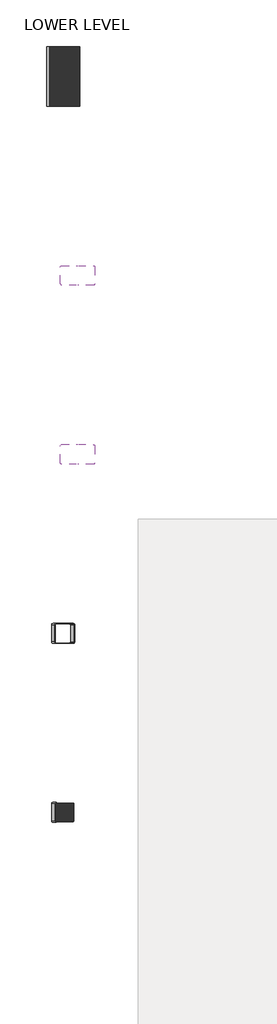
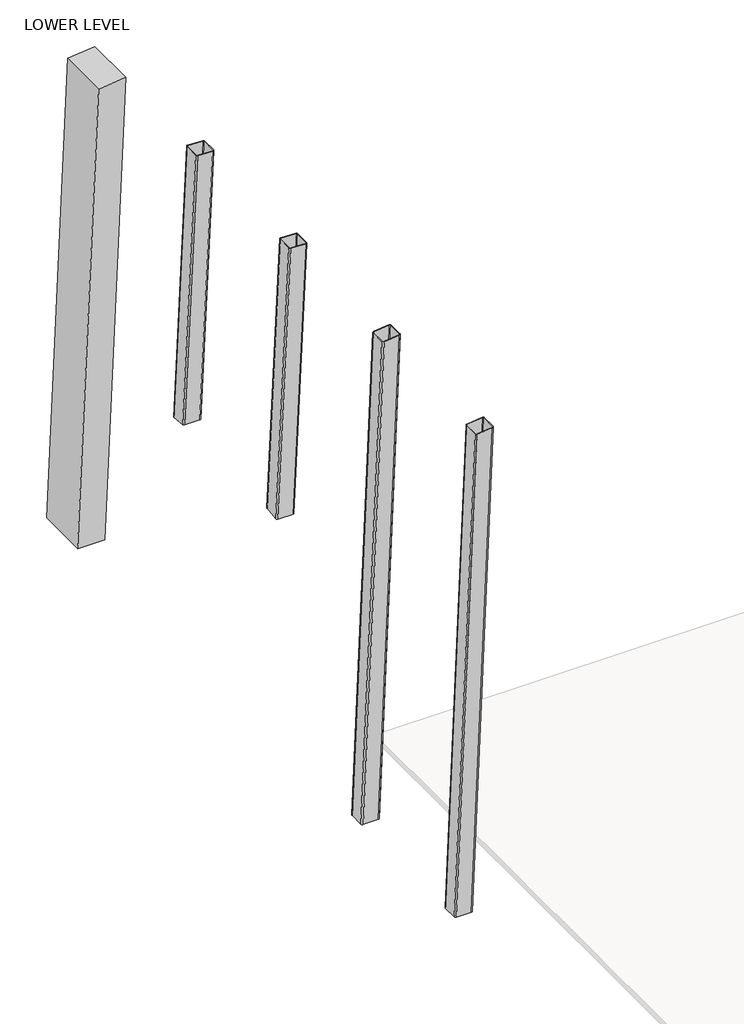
# One storey, part 2 of 2: 5 columns.
"""IFC4 building model written with IfcOpenShell, lengths in millimetres."""

from ifc_helpers import new_model, si_unit, frame, origin, place, context, project, spatial, polyline, circle_curve, ellipse_curve, faceted_brep, element, save
from ifc_brep_helpers import plane_surface, cylinder_surface, revolved_surface, advanced_brep

model = new_model("IFC4")

# Units and contexts
model_context = context("Model", 3, world=origin())
ifc_project = project(units=[si_unit("LENGTHUNIT", "METRE", prefix="MILLI")], contexts=[model_context])

# Site, building, storey
site = spatial("IfcSite", under=ifc_project)
building = spatial("IfcBuilding", under=site)
storey = spatial("IfcBuildingStorey", under=building, Name="LOWER LEVEL", Elevation=29972.0)

# Columns
placement = place(None, origin())
element("IfcColumn", 1, ObjectType="Concrete-Rectangular-Column : A_str", at=placement, inside=storey, context=model_context, shape_type="Brep", body=[
    faceted_brep([(-21147.4307495, 21762.6082736, 38153.7759611), (-21607.7400357, 21762.6082736, 38102.2891217), (-21607.7400357, 21759.2695005, 38102.2891217), (-21607.7400357, 20848.2082736, 38102.2891217), (-21147.4307495, 20848.2082736, 38153.7759611), (-21147.4307495, 21759.2695005, 38153.7759611), (-21965.9553348, 21762.6082736, 29972.0), (-21965.9553348, 20848.2082736, 29972.0), (-21507.9145255, 21762.6082736, 29972.0), (-21507.9145255, 20848.2082736, 29972.0)], [[[0, 1, 2, 3, 4, 5]], [[2, 1, 6, 7, 3]], [[1, 0, 8, 6]], [[4, 3, 7, 9]], [[5, 4, 9, 8, 0]], [[7, 6, 8, 9]]]),
])
element("IfcColumn", 2, ObjectType="HSS-Hollow Structural Section-Column : HSS12X12X1/2", at=placement, inside=storey, context=model_context, shape_type="AdvancedBrep", body=[
    advanced_brep(
    [(-21533.4360881, 10151.9775005, 38519.5536732), (-21533.4360881, 9894.4215005, 38519.5536732), (-21509.6829426, 9870.7995005, 38522.2104192), (-21250.6970332, 9870.7995005, 38551.1775203), (-21226.9438877, 9894.4215005, 38553.8342663), (-21226.9438877, 10151.9775005, 38553.8342663), (-21250.6970332, 10175.5995005, 38551.1775203), (-21509.6829426, 10175.5995005, 38522.2104192), (-21509.6829426, 9882.6105005, 38522.2104192), (-21521.5595154, 9894.4215005, 38520.8820462), (-21521.5595154, 10151.9775005, 38520.8820462), (-21509.6829426, 10163.7885005, 38522.2104192), (-21250.6970332, 10163.7885005, 38551.1775203), (-21238.8204605, 10151.9775005, 38552.5058933), (-21238.8204605, 9894.4215005, 38552.5058933), (-21250.6970332, 9882.6105005, 38551.1775203), (-21889.5056209, 9894.4215005, 29971.1494497), (-21889.5056209, 10151.9775005, 29971.1494497), (-21865.8631377, 10175.5995005, 29971.1494497), (-21608.0838046, 10175.5995005, 29971.1494497), (-21584.4413214, 10151.9775005, 29971.1494497), (-21584.4413214, 9894.4215005, 29971.1494497), (-21608.0838046, 9870.7995005, 29971.1494497), (-21865.8631377, 9870.7995005, 29971.1494497), (-21877.6843793, 9894.4215005, 29971.1494497), (-21865.8631377, 9882.6105005, 29971.1494497), (-21608.0838046, 9882.6105005, 29971.1494497), (-21596.262563, 9894.4215005, 29971.1494497), (-21596.262563, 10151.9775005, 29971.1494497), (-21608.0838046, 10163.7885005, 29971.1494497), (-21865.8631377, 10163.7885005, 29971.1494497), (-21877.6843793, 10151.9775005, 29971.1494497)],
    [
        (0, 1),
        (1, 2, ellipse_curve(frame((-21509.6829426, 9894.4215005, 38522.2104192), z_axis=(-0.11115505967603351, 0.0, 0.9938030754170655), x_axis=(0.9938030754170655, 0.0, 0.11115505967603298)), 23.9012598, 23.622)),
        (2, 3),
        (3, 4, ellipse_curve(frame((-21250.6970332, 9894.4215005, 38551.1775203), z_axis=(-0.11115505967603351, 0.0, 0.9938030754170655), x_axis=(0.9938030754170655, 0.0, 0.11115505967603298)), 23.9012598, 23.622)),
        (4, 5),
        (5, 6, ellipse_curve(frame((-21250.6970332, 10151.9775005, 38551.1775203), z_axis=(-0.11115505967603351, 0.0, 0.9938030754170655), x_axis=(0.9938030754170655, 0.0, 0.11115505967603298)), 23.9012598, 23.622)),
        (6, 7),
        (7, 0, ellipse_curve(frame((-21509.6829426, 10151.9775005, 38522.2104192), z_axis=(-0.11115505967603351, 0.0, 0.9938030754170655), x_axis=(0.9938030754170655, 0.0, 0.11115505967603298)), 23.9012598, 23.622)),
        (8, 9, ellipse_curve(frame((-21509.6829426, 9894.4215005, 38522.2104192), z_axis=(0.11115505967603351, 0.0, -0.9938030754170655), x_axis=(-0.9938030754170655, 0.0, -0.11115505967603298)), 11.9506299, 11.811)),
        (9, 10),
        (10, 11, ellipse_curve(frame((-21509.6829426, 10151.9775005, 38522.2104192), z_axis=(0.11115505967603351, 0.0, -0.9938030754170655), x_axis=(-0.9938030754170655, 0.0, -0.11115505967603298)), 11.9506299, 11.811)),
        (11, 12),
        (12, 13, ellipse_curve(frame((-21250.6970332, 10151.9775005, 38551.1775203), z_axis=(0.11115505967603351, 0.0, -0.9938030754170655), x_axis=(-0.9938030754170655, 0.0, -0.11115505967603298)), 11.9506299, 11.811)),
        (13, 14),
        (14, 15, ellipse_curve(frame((-21250.6970332, 9894.4215005, 38551.1775203), z_axis=(0.11115505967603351, 0.0, -0.9938030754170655), x_axis=(-0.9938030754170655, 0.0, -0.11115505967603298)), 11.9506299, 11.811)),
        (15, 8),
        (16, 17),
        (17, 18, ellipse_curve(frame((-21865.8631377, 10151.9775005, 29971.1494497), z_axis=(0.0, 0.0, -1.0), x_axis=(1.0, 0.0, 0.0)), 23.6424832, 23.622)),
        (18, 19),
        (19, 20, ellipse_curve(frame((-21608.0838046, 10151.9775005, 29971.1494497), z_axis=(0.0, 0.0, -1.0), x_axis=(1.0, 0.0, 0.0)), 23.6424832, 23.622)),
        (20, 21),
        (21, 22, ellipse_curve(frame((-21608.0838046, 9894.4215005, 29971.1494497), z_axis=(0.0, 0.0, -1.0), x_axis=(1.0, 0.0, 0.0)), 23.6424832, 23.622)),
        (22, 23),
        (23, 16, ellipse_curve(frame((-21865.8631377, 9894.4215005, 29971.1494497), z_axis=(0.0, 0.0, -1.0), x_axis=(1.0, 0.0, 0.0)), 23.6424832, 23.622)),
        (24, 25, ellipse_curve(frame((-21865.8631377, 9894.4215005, 29971.1494497), z_axis=(0.0, 0.0, 1.0), x_axis=(-1.0, 0.0, 0.0)), 11.8212416, 11.811)),
        (25, 26),
        (26, 27, ellipse_curve(frame((-21608.0838046, 9894.4215005, 29971.1494497), z_axis=(0.0, 0.0, 1.0), x_axis=(-1.0, 0.0, 0.0)), 11.8212416, 11.811)),
        (27, 28),
        (28, 29, ellipse_curve(frame((-21608.0838046, 10151.9775005, 29971.1494497), z_axis=(0.0, 0.0, 1.0), x_axis=(-1.0, 0.0, 0.0)), 11.8212416, 11.811)),
        (29, 30),
        (30, 31, ellipse_curve(frame((-21865.8631377, 10151.9775005, 29971.1494497), z_axis=(0.0, 0.0, 1.0), x_axis=(-1.0, 0.0, 0.0)), 11.8212416, 11.811)),
        (31, 24),
        (0, 17),
        (16, 1),
        (7, 18),
        (6, 19),
        (5, 20),
        (4, 21),
        (3, 22),
        (2, 23),
        (8, 25),
        (24, 9),
        (15, 26),
        (14, 27),
        (13, 28),
        (12, 29),
        (11, 30),
        (10, 31),
    ],
    [
        plane_surface(frame((-6860.2204607, 20600.2981473, 40160.7260534), z_axis=(-0.11115505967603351, 0.0, 0.9938030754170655), x_axis=(0.9938030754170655, 0.0, 0.11115505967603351))),
        plane_surface(frame((-21736.9734711, 10023.1995005, 29971.1494497), z_axis=(0.0, 0.0, -1.0), x_axis=(1.0, 0.0, 0.0))),
        plane_surface(frame((-21531.4798172, 10151.9775005, 38566.519203), z_axis=(-0.9991336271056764, 0.0, 0.04161724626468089), x_axis=(-0.04161724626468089, 0.0, -0.9991336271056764))),
        cylinder_surface(frame((-21883.5946664, 10151.9775005, 29545.4565416), z_axis=(0.04161724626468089, 0.0, 0.9991336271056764), x_axis=(0.0, 1.0, 0.0)), 23.622),
        plane_surface(frame((-21250.5454222, 10175.5995005, 38554.8173489), z_axis=(0.0, 1.0, 0.0), x_axis=(-0.04161724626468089, 0.0, -0.9991336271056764))),
        cylinder_surface(frame((-21626.2618059, 10151.9775005, 29534.7377702), z_axis=(0.04161724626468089, 0.0, 0.9991336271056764), x_axis=(0.0, 1.0, 0.0)), 23.622),
        plane_surface(frame((-21226.9438877, 9894.4215005, 38553.8342663), z_axis=(0.9991336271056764, 0.0, -0.04161724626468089), x_axis=(-0.04161724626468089, 0.0, -0.9991336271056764))),
        cylinder_surface(frame((-21626.2618059, 9894.4215005, 29534.7377702), z_axis=(0.04161724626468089, 0.0, 0.9991336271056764), x_axis=(0.0, 1.0, 0.0)), 23.622),
        plane_surface(frame((-21507.8782827, 9870.7995005, 38565.5361204), z_axis=(0.0, -1.0, 0.0), x_axis=(-0.04161724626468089, 0.0, -0.9991336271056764))),
        cylinder_surface(frame((-21883.5946664, 9894.4215005, 29545.4565416), z_axis=(0.04161724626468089, 0.0, 0.9991336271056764), x_axis=(0.0, 1.0, 0.0)), 23.622),
        revolved_surface(polyline([(-21865.88361202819, 9906.2325005, 29970.65790840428), (-21509.60713713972, 9906.2325005, 38524.03033347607)]), (-21883.5946664, 9894.4215005, 29545.4565416), (-0.04161724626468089, 0.0, -0.9991336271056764)),
        plane_surface(frame((-21250.5454222, 9882.6105005, 38554.8173489), z_axis=(0.0, 1.0, 0.0), x_axis=(-0.04161724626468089, 0.0, -0.9991336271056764))),
        revolved_surface(polyline([(-21608.10427896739, 9906.2325005, 29970.657908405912), (-21250.621227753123, 9906.2325005, 38552.99743459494)]), (-21626.2618059, 9894.4215005, 29534.7377702), (-0.04161724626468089, 0.0, -0.9991336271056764)),
        plane_surface(frame((-21238.744655, 10151.9775005, 38554.3258076), z_axis=(-0.9991336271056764, 0.0, 0.04161724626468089), x_axis=(-0.04161724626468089, 0.0, -0.9991336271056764))),
        revolved_surface(polyline([(-21608.10427896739, 10163.788500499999, 29970.657908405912), (-21250.621227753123, 10163.788500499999, 38552.99743459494)]), (-21626.2618059, 10151.9775005, 29534.7377702), (-0.04161724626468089, 0.0, -0.9991336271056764)),
        plane_surface(frame((-21507.8782827, 10163.7885005, 38565.5361204), z_axis=(0.0, -1.0, 0.0), x_axis=(-0.04161724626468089, 0.0, -0.9991336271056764))),
        revolved_surface(polyline([(-21865.88361202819, 10163.788500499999, 29970.65790840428), (-21509.60713713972, 10163.788500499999, 38524.03033347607)]), (-21883.5946664, 10151.9775005, 29545.4565416), (-0.04161724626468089, 0.0, -0.9991336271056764)),
        plane_surface(frame((-21519.67905, 9894.4215005, 38566.0276617), z_axis=(0.9991336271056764, 0.0, -0.04161724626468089), x_axis=(-0.04161724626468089, 0.0, -0.9991336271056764))),
    ],
    [
        (0, [[1, 2, 3, 4, 5, 6, 7, 8], [9, 10, 11, 12, 13, 14, 15, 16]]),
        (1, [[17, 18, 19, 20, 21, 22, 23, 24], [25, 26, 27, 28, 29, 30, 31, 32]]),
        (2, [[33, -17, 34, -1]]),
        (3, [[35, -18, -33, -8]]),
        (4, [[36, -19, -35, -7]]),
        (5, [[37, -20, -36, -6]]),
        (6, [[38, -21, -37, -5]]),
        (7, [[39, -22, -38, -4]]),
        (8, [[40, -23, -39, -3]]),
        (9, [[-34, -24, -40, -2]]),
        (10, [[41, -25, 42, -9]]),
        (11, [[43, -26, -41, -16]]),
        (12, [[44, -27, -43, -15]]),
        (13, [[45, -28, -44, -14]]),
        (14, [[46, -29, -45, -13]]),
        (15, [[47, -30, -46, -12]]),
        (16, [[48, -31, -47, -11]]),
        (17, [[-42, -32, -48, -10]]),
    ],
),
])
element("IfcColumn", 3, ObjectType="HSS-Hollow Structural Section-Column : HSS12X12X1/2", at=placement, inside=storey, context=model_context, shape_type="AdvancedBrep", body=[
    advanced_brep(
    [(-21533.4360881, 12895.1775005, 38519.5536732), (-21533.4360881, 12637.6215005, 38519.5536732), (-21509.6829426, 12613.9995005, 38522.2104192), (-21250.6970332, 12613.9995005, 38551.1775203), (-21226.9438877, 12637.6215005, 38553.8342663), (-21226.9438877, 12895.1775005, 38553.8342663), (-21250.6970332, 12918.7995005, 38551.1775203), (-21509.6829426, 12918.7995005, 38522.2104192), (-21509.6829426, 12625.8105005, 38522.2104192), (-21521.5595154, 12637.6215005, 38520.8820462), (-21521.5595154, 12895.1775005, 38520.8820462), (-21509.6829426, 12906.9885005, 38522.2104192), (-21250.6970332, 12906.9885005, 38551.1775203), (-21238.8204605, 12895.1775005, 38552.5058933), (-21238.8204605, 12637.6215005, 38552.5058933), (-21250.6970332, 12625.8105005, 38551.1775203), (-21889.5056209, 12637.6215005, 29971.1494497), (-21889.5056209, 12895.1775005, 29971.1494497), (-21865.8631377, 12918.7995005, 29971.1494497), (-21608.0838046, 12918.7995005, 29971.1494497), (-21584.4413214, 12895.1775005, 29971.1494497), (-21584.4413214, 12637.6215005, 29971.1494497), (-21608.0838046, 12613.9995005, 29971.1494497), (-21865.8631377, 12613.9995005, 29971.1494497), (-21877.6843793, 12637.6215005, 29971.1494497), (-21865.8631377, 12625.8105005, 29971.1494497), (-21608.0838046, 12625.8105005, 29971.1494497), (-21596.262563, 12637.6215005, 29971.1494497), (-21596.262563, 12895.1775005, 29971.1494497), (-21608.0838046, 12906.9885005, 29971.1494497), (-21865.8631377, 12906.9885005, 29971.1494497), (-21877.6843793, 12895.1775005, 29971.1494497)],
    [
        (0, 1),
        (1, 2, ellipse_curve(frame((-21509.6829426, 12637.6215005, 38522.2104192), z_axis=(-0.11115505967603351, 0.0, 0.9938030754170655), x_axis=(0.9938030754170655, 0.0, 0.11115505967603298)), 23.9012598, 23.622)),
        (2, 3),
        (3, 4, ellipse_curve(frame((-21250.6970332, 12637.6215005, 38551.1775203), z_axis=(-0.11115505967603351, 0.0, 0.9938030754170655), x_axis=(0.9938030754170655, 0.0, 0.11115505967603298)), 23.9012598, 23.622)),
        (4, 5),
        (5, 6, ellipse_curve(frame((-21250.6970332, 12895.1775005, 38551.1775203), z_axis=(-0.11115505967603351, 0.0, 0.9938030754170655), x_axis=(0.9938030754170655, 0.0, 0.11115505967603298)), 23.9012598, 23.622)),
        (6, 7),
        (7, 0, ellipse_curve(frame((-21509.6829426, 12895.1775005, 38522.2104192), z_axis=(-0.11115505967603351, 0.0, 0.9938030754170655), x_axis=(0.9938030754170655, 0.0, 0.11115505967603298)), 23.9012598, 23.622)),
        (8, 9, ellipse_curve(frame((-21509.6829426, 12637.6215005, 38522.2104192), z_axis=(0.11115505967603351, 0.0, -0.9938030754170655), x_axis=(-0.9938030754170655, 0.0, -0.11115505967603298)), 11.9506299, 11.811)),
        (9, 10),
        (10, 11, ellipse_curve(frame((-21509.6829426, 12895.1775005, 38522.2104192), z_axis=(0.11115505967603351, 0.0, -0.9938030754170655), x_axis=(-0.9938030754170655, 0.0, -0.11115505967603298)), 11.9506299, 11.811)),
        (11, 12),
        (12, 13, ellipse_curve(frame((-21250.6970332, 12895.1775005, 38551.1775203), z_axis=(0.11115505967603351, 0.0, -0.9938030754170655), x_axis=(-0.9938030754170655, 0.0, -0.11115505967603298)), 11.9506299, 11.811)),
        (13, 14),
        (14, 15, ellipse_curve(frame((-21250.6970332, 12637.6215005, 38551.1775203), z_axis=(0.11115505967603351, 0.0, -0.9938030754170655), x_axis=(-0.9938030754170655, 0.0, -0.11115505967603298)), 11.9506299, 11.811)),
        (15, 8),
        (16, 17),
        (17, 18, ellipse_curve(frame((-21865.8631377, 12895.1775005, 29971.1494497), z_axis=(0.0, 0.0, -1.0), x_axis=(1.0, 0.0, 0.0)), 23.6424832, 23.622)),
        (18, 19),
        (19, 20, ellipse_curve(frame((-21608.0838046, 12895.1775005, 29971.1494497), z_axis=(0.0, 0.0, -1.0), x_axis=(1.0, 0.0, 0.0)), 23.6424832, 23.622)),
        (20, 21),
        (21, 22, ellipse_curve(frame((-21608.0838046, 12637.6215005, 29971.1494497), z_axis=(0.0, 0.0, -1.0), x_axis=(1.0, 0.0, 0.0)), 23.6424832, 23.622)),
        (22, 23),
        (23, 16, ellipse_curve(frame((-21865.8631377, 12637.6215005, 29971.1494497), z_axis=(0.0, 0.0, -1.0), x_axis=(1.0, 0.0, 0.0)), 23.6424832, 23.622)),
        (24, 25, ellipse_curve(frame((-21865.8631377, 12637.6215005, 29971.1494497), z_axis=(0.0, 0.0, 1.0), x_axis=(-1.0, 0.0, 0.0)), 11.8212416, 11.811)),
        (25, 26),
        (26, 27, ellipse_curve(frame((-21608.0838046, 12637.6215005, 29971.1494497), z_axis=(0.0, 0.0, 1.0), x_axis=(-1.0, 0.0, 0.0)), 11.8212416, 11.811)),
        (27, 28),
        (28, 29, ellipse_curve(frame((-21608.0838046, 12895.1775005, 29971.1494497), z_axis=(0.0, 0.0, 1.0), x_axis=(-1.0, 0.0, 0.0)), 11.8212416, 11.811)),
        (29, 30),
        (30, 31, ellipse_curve(frame((-21865.8631377, 12895.1775005, 29971.1494497), z_axis=(0.0, 0.0, 1.0), x_axis=(-1.0, 0.0, 0.0)), 11.8212416, 11.811)),
        (31, 24),
        (0, 17),
        (16, 1),
        (7, 18),
        (6, 19),
        (5, 20),
        (4, 21),
        (3, 22),
        (2, 23),
        (8, 25),
        (24, 9),
        (15, 26),
        (14, 27),
        (13, 28),
        (12, 29),
        (11, 30),
        (10, 31),
    ],
    [
        plane_surface(frame((-6860.2204607, 20600.2981473, 40160.7260534), z_axis=(-0.11115505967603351, 0.0, 0.9938030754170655), x_axis=(0.9938030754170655, 0.0, 0.11115505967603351))),
        plane_surface(frame((-21736.9734711, 12766.3995005, 29971.1494497), z_axis=(0.0, 0.0, -1.0), x_axis=(1.0, 0.0, 0.0))),
        plane_surface(frame((-21531.4798172, 12895.1775005, 38566.519203), z_axis=(-0.9991336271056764, 0.0, 0.04161724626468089), x_axis=(-0.04161724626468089, 0.0, -0.9991336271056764))),
        cylinder_surface(frame((-21883.5946664, 12895.1775005, 29545.4565416), z_axis=(0.04161724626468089, 0.0, 0.9991336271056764), x_axis=(0.0, 1.0, 0.0)), 23.622),
        plane_surface(frame((-21250.5454222, 12918.7995005, 38554.8173489), z_axis=(0.0, 1.0, 0.0), x_axis=(-0.04161724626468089, 0.0, -0.9991336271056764))),
        cylinder_surface(frame((-21626.2618059, 12895.1775005, 29534.7377702), z_axis=(0.04161724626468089, 0.0, 0.9991336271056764), x_axis=(0.0, 1.0, 0.0)), 23.622),
        plane_surface(frame((-21226.9438877, 12637.6215005, 38553.8342663), z_axis=(0.9991336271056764, 0.0, -0.04161724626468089), x_axis=(-0.04161724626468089, 0.0, -0.9991336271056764))),
        cylinder_surface(frame((-21626.2618059, 12637.6215005, 29534.7377702), z_axis=(0.04161724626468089, 0.0, 0.9991336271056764), x_axis=(0.0, 1.0, 0.0)), 23.622),
        plane_surface(frame((-21507.8782827, 12613.9995005, 38565.5361204), z_axis=(0.0, -1.0, 0.0), x_axis=(-0.04161724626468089, 0.0, -0.9991336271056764))),
        cylinder_surface(frame((-21883.5946664, 12637.6215005, 29545.4565416), z_axis=(0.04161724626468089, 0.0, 0.9991336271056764), x_axis=(0.0, 1.0, 0.0)), 23.622),
        revolved_surface(polyline([(-21865.88361202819, 12649.4325005, 29970.65790840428), (-21509.60713713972, 12649.4325005, 38524.03033347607)]), (-21883.5946664, 12637.6215005, 29545.4565416), (-0.04161724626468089, 0.0, -0.9991336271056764)),
        plane_surface(frame((-21250.5454222, 12625.8105005, 38554.8173489), z_axis=(0.0, 1.0, 0.0), x_axis=(-0.04161724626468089, 0.0, -0.9991336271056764))),
        revolved_surface(polyline([(-21608.10427896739, 12649.4325005, 29970.657908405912), (-21250.621227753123, 12649.4325005, 38552.99743459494)]), (-21626.2618059, 12637.6215005, 29534.7377702), (-0.04161724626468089, 0.0, -0.9991336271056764)),
        plane_surface(frame((-21238.744655, 12895.1775005, 38554.3258076), z_axis=(-0.9991336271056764, 0.0, 0.04161724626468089), x_axis=(-0.04161724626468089, 0.0, -0.9991336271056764))),
        revolved_surface(polyline([(-21608.10427896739, 12906.9885005, 29970.657908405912), (-21250.621227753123, 12906.9885005, 38552.99743459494)]), (-21626.2618059, 12895.1775005, 29534.7377702), (-0.04161724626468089, 0.0, -0.9991336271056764)),
        plane_surface(frame((-21507.8782827, 12906.9885005, 38565.5361204), z_axis=(0.0, -1.0, 0.0), x_axis=(-0.04161724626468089, 0.0, -0.9991336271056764))),
        revolved_surface(polyline([(-21865.88361202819, 12906.9885005, 29970.65790840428), (-21509.60713713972, 12906.9885005, 38524.03033347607)]), (-21883.5946664, 12895.1775005, 29545.4565416), (-0.04161724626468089, 0.0, -0.9991336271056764)),
        plane_surface(frame((-21519.67905, 12637.6215005, 38566.0276617), z_axis=(0.9991336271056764, 0.0, -0.04161724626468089), x_axis=(-0.04161724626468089, 0.0, -0.9991336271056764))),
    ],
    [
        (0, [[1, 2, 3, 4, 5, 6, 7, 8], [9, 10, 11, 12, 13, 14, 15, 16]]),
        (1, [[17, 18, 19, 20, 21, 22, 23, 24], [25, 26, 27, 28, 29, 30, 31, 32]]),
        (2, [[33, -17, 34, -1]]),
        (3, [[35, -18, -33, -8]]),
        (4, [[36, -19, -35, -7]]),
        (5, [[37, -20, -36, -6]]),
        (6, [[38, -21, -37, -5]]),
        (7, [[39, -22, -38, -4]]),
        (8, [[40, -23, -39, -3]]),
        (9, [[-34, -24, -40, -2]]),
        (10, [[41, -25, 42, -9]]),
        (11, [[43, -26, -41, -16]]),
        (12, [[44, -27, -43, -15]]),
        (13, [[45, -28, -44, -14]]),
        (14, [[46, -29, -45, -13]]),
        (15, [[47, -30, -46, -12]]),
        (16, [[48, -31, -47, -11]]),
        (17, [[-42, -32, -48, -10]]),
    ],
),
])
element("IfcColumn", 4, ObjectType="HSS-Hollow Structural Section-Column : HSS12X12X1/2", at=placement, inside=storey, context=model_context, shape_type="AdvancedBrep", body=[
    advanced_brep(
    [(-21754.9418333, 15380.8215005, 33750.1718462), (-21753.6772977, 15638.3775005, 33777.4133462), (-21729.9138834, 15661.9995005, 33779.9118269), (-21472.0805463, 15661.9995005, 33779.9118269), (-21448.5490881, 15638.3775005, 33777.4133462), (-21449.8136237, 15380.8215005, 33750.1718462), (-21473.577038, 15357.1995005, 33747.6733654), (-21731.4103751, 15357.1995005, 33747.6733654), (-21743.1181151, 15380.8215005, 33750.1718462), (-21731.3523861, 15369.0105005, 33748.9226058), (-21473.519049, 15369.0105005, 33748.9226058), (-21461.6373418, 15380.8215005, 33750.1718462), (-21460.3728063, 15638.3775005, 33777.4133462), (-21472.1385353, 15650.1885005, 33778.6625865), (-21729.9718724, 15650.1885005, 33778.6625865), (-21741.8535796, 15638.3775005, 33777.4133462), (-21532.4260596, 15638.3775005, 38543.760685), (-21532.4260596, 15380.8215005, 38543.760685), (-21508.8294685, 15357.1995005, 38542.6653441), (-21251.5505073, 15357.1995005, 38530.7225954), (-21227.9539162, 15380.8215005, 38529.6272545), (-21227.9539162, 15638.3775005, 38529.6272545), (-21251.5505073, 15661.9995005, 38530.7225954), (-21508.8294685, 15661.9995005, 38542.6653441), (-21520.6277641, 15638.3775005, 38543.2130146), (-21508.8294685, 15650.1885005, 38542.6653441), (-21251.5505073, 15650.1885005, 38530.7225954), (-21239.7522117, 15638.3775005, 38530.174925), (-21239.7522117, 15380.8215005, 38530.174925), (-21251.5505073, 15369.0105005, 38530.7225954), (-21508.8294685, 15369.0105005, 38542.6653441), (-21520.6277641, 15380.8215005, 38543.2130146)],
    [
        (0, 1),
        (1, 2, ellipse_curve(frame((-21730.0298615, 15638.3775005, 33777.4133462), z_axis=(0.0, 0.10518252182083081, -0.9944529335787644), x_axis=(0.40375232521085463, 0.9097934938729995, 0.09622815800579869)), 23.7793418, 23.622)),
        (2, 3),
        (3, 4, ellipse_curve(frame((-21472.1965244, 15638.3775005, 33777.4133462), z_axis=(0.0, 0.10518252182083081, -0.9944529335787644), x_axis=(0.40375232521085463, 0.9097934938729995, 0.09622815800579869)), 23.7793418, 23.622)),
        (4, 5),
        (5, 6, ellipse_curve(frame((-21473.4610599, 15380.8215005, 33750.1718462), z_axis=(0.0, 0.10518252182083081, -0.9944529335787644), x_axis=(0.40375232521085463, 0.9097934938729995, 0.09622815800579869)), 23.7793418, 23.622)),
        (6, 7),
        (7, 0, ellipse_curve(frame((-21731.294397, 15380.8215005, 33750.1718462), z_axis=(0.0, 0.10518252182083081, -0.9944529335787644), x_axis=(0.40375232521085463, 0.9097934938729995, 0.09622815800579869)), 23.7793418, 23.622)),
        (8, 9, ellipse_curve(frame((-21731.294397, 15380.8215005, 33750.1718462), z_axis=(0.0, -0.10518252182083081, 0.9944529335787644), x_axis=(-0.40375232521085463, -0.9097934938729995, -0.09622815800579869)), 11.8896709, 11.811)),
        (9, 10),
        (10, 11, ellipse_curve(frame((-21473.4610599, 15380.8215005, 33750.1718462), z_axis=(0.0, -0.10518252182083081, 0.9944529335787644), x_axis=(-0.40375232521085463, -0.9097934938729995, -0.09622815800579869)), 11.8896709, 11.811)),
        (11, 12),
        (12, 13, ellipse_curve(frame((-21472.1965244, 15638.3775005, 33777.4133462), z_axis=(0.0, -0.10518252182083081, 0.9944529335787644), x_axis=(-0.40375232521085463, -0.9097934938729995, -0.09622815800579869)), 11.8896709, 11.811)),
        (13, 14),
        (14, 15, ellipse_curve(frame((-21730.0298615, 15638.3775005, 33777.4133462), z_axis=(0.0, -0.10518252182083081, 0.9944529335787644), x_axis=(-0.40375232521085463, -0.9097934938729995, -0.09622815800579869)), 11.8896709, 11.811)),
        (15, 8),
        (16, 17),
        (17, 18, circle_curve(frame((-21508.8294685, 15380.8215005, 38542.6653441), z_axis=(0.04636952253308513, 0.0, 0.9989243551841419), x_axis=(0.0, 1.0, 0.0)), 23.622)),
        (18, 19),
        (19, 20, circle_curve(frame((-21251.5505073, 15380.8215005, 38530.7225954), z_axis=(0.04636952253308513, 0.0, 0.9989243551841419), x_axis=(0.0, 1.0, 0.0)), 23.622)),
        (20, 21),
        (21, 22, circle_curve(frame((-21251.5505073, 15638.3775005, 38530.7225954), z_axis=(0.04636952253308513, 0.0, 0.9989243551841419), x_axis=(0.0, 1.0, 0.0)), 23.622)),
        (22, 23),
        (23, 16, circle_curve(frame((-21508.8294685, 15638.3775005, 38542.6653441), z_axis=(0.04636952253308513, 0.0, 0.9989243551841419), x_axis=(0.0, 1.0, 0.0)), 23.622)),
        (24, 25, circle_curve(frame((-21508.8294685, 15638.3775005, 38542.6653441), z_axis=(-0.04636952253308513, 0.0, -0.9989243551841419), x_axis=(0.0, 1.0, 0.0)), 11.811)),
        (25, 26),
        (26, 27, circle_curve(frame((-21251.5505073, 15638.3775005, 38530.7225954), z_axis=(-0.04636952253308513, 0.0, -0.9989243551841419), x_axis=(0.0, 1.0, 0.0)), 11.811)),
        (27, 28),
        (28, 29, circle_curve(frame((-21251.5505073, 15380.8215005, 38530.7225954), z_axis=(-0.04636952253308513, 0.0, -0.9989243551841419), x_axis=(0.0, 1.0, 0.0)), 11.811)),
        (29, 30),
        (30, 31, circle_curve(frame((-21508.8294685, 15380.8215005, 38542.6653441), z_axis=(-0.04636952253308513, 0.0, -0.9989243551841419), x_axis=(0.0, 1.0, 0.0)), 11.811)),
        (31, 24),
        (24, 15),
        (14, 25),
        (13, 26),
        (12, 27),
        (11, 28),
        (10, 29),
        (9, 30),
        (8, 31),
        (16, 1),
        (0, 17),
        (23, 2),
        (7, 18),
        (6, 19),
        (5, 20),
        (4, 21),
        (3, 22),
    ],
    [
        plane_surface(frame((-22782.4560566, 16882.4695005, 33909.0), z_axis=(0.0, 0.10518252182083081, -0.9944529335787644), x_axis=(0.0, 0.9944529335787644, 0.10518252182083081))),
        plane_surface(frame((-21532.4260596, 15380.8215005, 38543.760685), z_axis=(0.04636952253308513, 0.0, 0.9989243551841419), x_axis=(0.0, -1.0, 0.0))),
        revolved_surface(polyline([(-21730.093178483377, 15650.1885005, 33776.04932844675), (-21508.829468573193, 15650.1885005, 38542.665344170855)]), (-21751.5820437, 15638.3775005, 33313.1213176), (-0.04636952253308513, 0.0, -0.9989243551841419)),
        plane_surface(frame((-21508.8294685, 15650.1885005, 38542.6653441), z_axis=(0.0, -1.0, 0.0), x_axis=(-0.04636952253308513, 0.0, -0.9989243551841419))),
        revolved_surface(polyline([(-21472.25984131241, 15650.1885005, 33776.049328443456), (-21251.550507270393, 15650.1885005, 38530.722595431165)]), (-21494.3030824, 15638.3775005, 33301.1785688), (-0.04636952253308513, 0.0, -0.9989243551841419)),
        plane_surface(frame((-21239.7522117, 15638.3775005, 38530.174925), z_axis=(-0.9989243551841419, 0.0, 0.04636952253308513), x_axis=(-0.04636952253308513, 0.0, -0.9989243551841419))),
        revolved_surface(polyline([(-21473.52437685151, 15392.6325005, 33748.807828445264), (-21251.550507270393, 15392.6325005, 38530.722595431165)]), (-21494.3030824, 15380.8215005, 33301.1785688), (-0.04636952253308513, 0.0, -0.9989243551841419)),
        plane_surface(frame((-21251.5505073, 15369.0105005, 38530.7225954), z_axis=(0.0, 1.0, 0.0), x_axis=(-0.04636952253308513, 0.0, -0.9989243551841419))),
        revolved_surface(polyline([(-21731.357714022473, 15392.6325005, 33748.80782844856), (-21508.829468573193, 15392.6325005, 38542.665344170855)]), (-21751.5820437, 15380.8215005, 33313.1213176), (-0.04636952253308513, 0.0, -0.9989243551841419)),
        plane_surface(frame((-21532.4260596, 15638.3775005, 38543.760685), z_axis=(-0.9989243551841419, 0.0, 0.04636952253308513), x_axis=(-0.04636952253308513, 0.0, -0.9989243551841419))),
        cylinder_surface(frame((-21751.5820437, 15638.3775005, 33313.1213176), z_axis=(0.04636952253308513, 0.0, 0.9989243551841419), x_axis=(0.0, 1.0, 0.0)), 23.622),
        cylinder_surface(frame((-21751.5820437, 15380.8215005, 33313.1213176), z_axis=(0.04636952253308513, 0.0, 0.9989243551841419), x_axis=(0.0, 1.0, 0.0)), 23.622),
        plane_surface(frame((-21520.6277641, 15380.8215005, 38543.2130146), z_axis=(0.9989243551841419, 0.0, -0.04636952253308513), x_axis=(-0.04636952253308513, 0.0, -0.9989243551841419))),
        plane_surface(frame((-21508.8294685, 15357.1995005, 38542.6653441), z_axis=(0.0, -1.0, 0.0), x_axis=(-0.04636952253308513, 0.0, -0.9989243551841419))),
        cylinder_surface(frame((-21494.3030824, 15380.8215005, 33301.1785688), z_axis=(0.04636952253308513, 0.0, 0.9989243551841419), x_axis=(0.0, 1.0, 0.0)), 23.622),
        plane_surface(frame((-21227.9539162, 15380.8215005, 38529.6272545), z_axis=(0.9989243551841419, 0.0, -0.04636952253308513), x_axis=(-0.04636952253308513, 0.0, -0.9989243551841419))),
        cylinder_surface(frame((-21494.3030824, 15638.3775005, 33301.1785688), z_axis=(0.04636952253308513, 0.0, 0.9989243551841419), x_axis=(0.0, 1.0, 0.0)), 23.622),
        plane_surface(frame((-21251.5505073, 15661.9995005, 38530.7225954), z_axis=(0.0, 1.0, 0.0), x_axis=(-0.04636952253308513, 0.0, -0.9989243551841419))),
    ],
    [
        (0, [[1, 2, 3, 4, 5, 6, 7, 8], [9, 10, 11, 12, 13, 14, 15, 16]]),
        (1, [[17, 18, 19, 20, 21, 22, 23, 24], [25, 26, 27, 28, 29, 30, 31, 32]]),
        (2, [[-25, 33, -15, 34]]),
        (3, [[-26, -34, -14, 35]]),
        (4, [[-27, -35, -13, 36]]),
        (5, [[-28, -36, -12, 37]]),
        (6, [[-29, -37, -11, 38]]),
        (7, [[-30, -38, -10, 39]]),
        (8, [[-31, -39, -9, 40]]),
        (9, [[-17, 41, -1, 42]]),
        (10, [[-24, 43, -2, -41]]),
        (11, [[-18, -42, -8, 44]]),
        (12, [[-32, -40, -16, -33]]),
        (13, [[-19, -44, -7, 45]]),
        (14, [[-20, -45, -6, 46]]),
        (15, [[-21, -46, -5, 47]]),
        (16, [[-22, -47, -4, 48]]),
        (17, [[-23, -48, -3, -43]]),
    ],
),
])
element("IfcColumn", 5, ObjectType="HSS-Hollow Structural Section-Column : HSS12X12X1/2", at=placement, inside=storey, context=model_context, shape_type="AdvancedBrep", body=[
    advanced_brep(
    [(-21753.6772806, 18124.0215005, 33777.682), (-21754.9418873, 18381.5775005, 33750.4405), (-21731.4104329, 18405.1995005, 33747.9420192), (-21473.5770646, 18405.1995005, 33747.9420192), (-21449.8136408, 18381.5775005, 33750.4405), (-21448.5490341, 18124.0215005, 33777.682), (-21472.0804886, 18100.3995005, 33780.1804808), (-21729.9138569, 18100.3995005, 33780.1804808), (-21741.853561, 18124.0215005, 33777.682), (-21729.9718492, 18112.2105005, 33778.9312404), (-21472.1384809, 18112.2105005, 33778.9312404), (-21460.3727536, 18124.0215005, 33777.682), (-21461.6373604, 18381.5775005, 33750.4405), (-21473.5190722, 18393.3885005, 33749.1912596), (-21731.3524405, 18393.3885005, 33749.1912596), (-21743.1181678, 18381.5775005, 33750.4405), (-21532.4260412, 18381.5775005, 38543.7610819), (-21532.4260412, 18124.0215005, 38543.7610819), (-21508.829453, 18100.3995005, 38542.6656795), (-21251.5505229, 18100.3995005, 38530.72226), (-21227.9539346, 18124.0215005, 38529.6268576), (-21227.9539346, 18381.5775005, 38529.6268576), (-21251.5505229, 18405.1995005, 38530.72226), (-21508.829453, 18405.1995005, 38542.6656795), (-21520.6277471, 18381.5775005, 38543.2133807), (-21508.829453, 18393.3885005, 38542.6656795), (-21251.5505229, 18393.3885005, 38530.72226), (-21239.7522287, 18381.5775005, 38530.1745588), (-21239.7522287, 18124.0215005, 38530.1745588), (-21251.5505229, 18112.2105005, 38530.72226), (-21508.829453, 18112.2105005, 38542.6656795), (-21520.6277471, 18124.0215005, 38543.2133807)],
    [
        (0, 1),
        (1, 2, ellipse_curve(frame((-21731.2944482, 18381.5775005, 33750.4405), z_axis=(0.0, -0.10518252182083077, -0.9944529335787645), x_axis=(0.40377134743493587, -0.9097851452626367, 0.09622727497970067)), 23.7793447, 23.622)),
        (2, 3),
        (3, 4, ellipse_curve(frame((-21473.4610799, 18381.5775005, 33750.4405), z_axis=(0.0, -0.10518252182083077, -0.9944529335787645), x_axis=(0.40377134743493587, -0.9097851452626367, 0.09622727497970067)), 23.7793447, 23.622)),
        (4, 5),
        (5, 6, ellipse_curve(frame((-21472.1964732, 18124.0215005, 33777.682), z_axis=(0.0, -0.10518252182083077, -0.9944529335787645), x_axis=(0.40377134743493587, -0.9097851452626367, 0.09622727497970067)), 23.7793447, 23.622)),
        (6, 7),
        (7, 0, ellipse_curve(frame((-21730.0298415, 18124.0215005, 33777.682), z_axis=(0.0, -0.10518252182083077, -0.9944529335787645), x_axis=(0.40377134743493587, -0.9097851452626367, 0.09622727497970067)), 23.7793447, 23.622)),
        (8, 9, ellipse_curve(frame((-21730.0298415, 18124.0215005, 33777.682), z_axis=(0.0, 0.10518252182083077, 0.9944529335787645), x_axis=(-0.40377134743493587, 0.9097851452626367, -0.09622727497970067)), 11.8896724, 11.811)),
        (9, 10),
        (10, 11, ellipse_curve(frame((-21472.1964732, 18124.0215005, 33777.682), z_axis=(0.0, 0.10518252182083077, 0.9944529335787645), x_axis=(-0.40377134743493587, 0.9097851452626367, -0.09622727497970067)), 11.8896724, 11.811)),
        (11, 12),
        (12, 13, ellipse_curve(frame((-21473.4610799, 18381.5775005, 33750.4405), z_axis=(0.0, 0.10518252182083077, 0.9944529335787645), x_axis=(-0.40377134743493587, 0.9097851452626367, -0.09622727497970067)), 11.8896724, 11.811)),
        (13, 14),
        (14, 15, ellipse_curve(frame((-21731.2944482, 18381.5775005, 33750.4405), z_axis=(0.0, 0.10518252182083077, 0.9944529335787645), x_axis=(-0.40377134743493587, 0.9097851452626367, -0.09622727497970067)), 11.8896724, 11.811)),
        (15, 8),
        (16, 17),
        (17, 18, circle_curve(frame((-21508.829453, 18124.0215005, 38542.6656795), z_axis=(0.04637212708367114, 0.0, 0.9989242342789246), x_axis=(0.0, 1.0, 0.0)), 23.622)),
        (18, 19),
        (19, 20, circle_curve(frame((-21251.5505229, 18124.0215005, 38530.72226), z_axis=(0.04637212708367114, 0.0, 0.9989242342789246), x_axis=(0.0, 1.0, 0.0)), 23.622)),
        (20, 21),
        (21, 22, circle_curve(frame((-21251.5505229, 18381.5775005, 38530.72226), z_axis=(0.04637212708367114, 0.0, 0.9989242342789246), x_axis=(0.0, 1.0, 0.0)), 23.622)),
        (22, 23),
        (23, 16, circle_curve(frame((-21508.829453, 18381.5775005, 38542.6656795), z_axis=(0.04637212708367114, 0.0, 0.9989242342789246), x_axis=(0.0, 1.0, 0.0)), 23.622)),
        (24, 25, circle_curve(frame((-21508.829453, 18381.5775005, 38542.6656795), z_axis=(-0.04637212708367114, 0.0, -0.9989242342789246), x_axis=(0.0, 1.0, 0.0)), 11.811)),
        (25, 26),
        (26, 27, circle_curve(frame((-21251.5505229, 18381.5775005, 38530.72226), z_axis=(-0.04637212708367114, 0.0, -0.9989242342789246), x_axis=(0.0, 1.0, 0.0)), 11.811)),
        (27, 28),
        (28, 29, circle_curve(frame((-21251.5505229, 18124.0215005, 38530.72226), z_axis=(-0.04637212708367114, 0.0, -0.9989242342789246), x_axis=(0.0, 1.0, 0.0)), 11.811)),
        (29, 30),
        (30, 31, circle_curve(frame((-21508.829453, 18124.0215005, 38542.6656795), z_axis=(-0.04637212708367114, 0.0, -0.9989242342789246), x_axis=(0.0, 1.0, 0.0)), 11.811)),
        (31, 24),
        (24, 15),
        (14, 25),
        (13, 26),
        (12, 27),
        (11, 28),
        (10, 29),
        (9, 30),
        (8, 31),
        (16, 1),
        (0, 17),
        (23, 2),
        (7, 18),
        (6, 19),
        (5, 20),
        (4, 21),
        (3, 22),
    ],
    [
        plane_surface(frame((-22782.4560566, 16882.4695005, 33909.0), z_axis=(0.0, -0.10518252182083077, -0.9944529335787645), x_axis=(0.0, -0.9944529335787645, 0.10518252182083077))),
        plane_surface(frame((-21532.4260412, 18124.0215005, 38543.7610819), z_axis=(0.04637212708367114, 0.0, 0.9989242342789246), x_axis=(0.0, -1.0, 0.0))),
        revolved_surface(polyline([(-21731.357769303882, 18393.3885005, 33749.076469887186), (-21508.82945295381, 18393.3885005, 38542.66567950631)]), (-21751.5832397, 18381.5775005, 33313.3899099), (-0.04637212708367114, 0.0, -0.9989242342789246)),
        plane_surface(frame((-21508.829453, 18393.3885005, 38542.6656795), z_axis=(0.0, -1.0, 0.0), x_axis=(-0.04637212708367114, 0.0, -0.9989242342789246))),
        revolved_surface(polyline([(-21473.524400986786, 18393.3885005, 33749.07646988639), (-21251.55052284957, 18393.3885005, 38530.72225999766)]), (-21494.3043096, 18381.5775005, 33301.4464903), (-0.04637212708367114, 0.0, -0.9989242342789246)),
        plane_surface(frame((-21239.7522287, 18381.5775005, 38530.1745588), z_axis=(-0.9989242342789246, 0.0, 0.04637212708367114), x_axis=(-0.04637212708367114, 0.0, -0.9989242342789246))),
        revolved_surface(polyline([(-21472.25979426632, 18135.8325005, 33776.317969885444), (-21251.55052284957, 18135.8325005, 38530.72225999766)]), (-21494.3043096, 18124.0215005, 33301.4464903), (-0.04637212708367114, 0.0, -0.9989242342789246)),
        plane_surface(frame((-21251.5505229, 18112.2105005, 38530.72226), z_axis=(0.0, 1.0, 0.0), x_axis=(-0.04637212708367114, 0.0, -0.9989242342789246))),
        revolved_surface(polyline([(-21730.093162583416, 18135.8325005, 33776.31796988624), (-21508.82945295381, 18135.8325005, 38542.66567950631)]), (-21751.5832397, 18124.0215005, 33313.3899099), (-0.04637212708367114, 0.0, -0.9989242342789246)),
        plane_surface(frame((-21532.4260412, 18381.5775005, 38543.7610819), z_axis=(-0.9989242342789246, 0.0, 0.04637212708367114), x_axis=(-0.04637212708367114, 0.0, -0.9989242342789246))),
        cylinder_surface(frame((-21751.5832397, 18381.5775005, 33313.3899099), z_axis=(0.04637212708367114, 0.0, 0.9989242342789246), x_axis=(0.0, 1.0, 0.0)), 23.622),
        cylinder_surface(frame((-21751.5832397, 18124.0215005, 33313.3899099), z_axis=(0.04637212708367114, 0.0, 0.9989242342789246), x_axis=(0.0, 1.0, 0.0)), 23.622),
        plane_surface(frame((-21520.6277471, 18124.0215005, 38543.2133807), z_axis=(0.9989242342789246, 0.0, -0.04637212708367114), x_axis=(-0.04637212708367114, 0.0, -0.9989242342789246))),
        plane_surface(frame((-21508.829453, 18100.3995005, 38542.6656795), z_axis=(0.0, -1.0, 0.0), x_axis=(-0.04637212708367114, 0.0, -0.9989242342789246))),
        cylinder_surface(frame((-21494.3043096, 18124.0215005, 33301.4464903), z_axis=(0.04637212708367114, 0.0, 0.9989242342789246), x_axis=(0.0, 1.0, 0.0)), 23.622),
        plane_surface(frame((-21227.9539346, 18124.0215005, 38529.6268576), z_axis=(0.9989242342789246, 0.0, -0.04637212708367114), x_axis=(-0.04637212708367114, 0.0, -0.9989242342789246))),
        cylinder_surface(frame((-21494.3043096, 18381.5775005, 33301.4464903), z_axis=(0.04637212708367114, 0.0, 0.9989242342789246), x_axis=(0.0, 1.0, 0.0)), 23.622),
        plane_surface(frame((-21251.5505229, 18405.1995005, 38530.72226), z_axis=(0.0, 1.0, 0.0), x_axis=(-0.04637212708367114, 0.0, -0.9989242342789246))),
    ],
    [
        (0, [[1, 2, 3, 4, 5, 6, 7, 8], [9, 10, 11, 12, 13, 14, 15, 16]]),
        (1, [[17, 18, 19, 20, 21, 22, 23, 24], [25, 26, 27, 28, 29, 30, 31, 32]]),
        (2, [[-25, 33, -15, 34]]),
        (3, [[-26, -34, -14, 35]]),
        (4, [[-27, -35, -13, 36]]),
        (5, [[-28, -36, -12, 37]]),
        (6, [[-29, -37, -11, 38]]),
        (7, [[-30, -38, -10, 39]]),
        (8, [[-31, -39, -9, 40]]),
        (9, [[-17, 41, -1, 42]]),
        (10, [[-24, 43, -2, -41]]),
        (11, [[-18, -42, -8, 44]]),
        (12, [[-32, -40, -16, -33]]),
        (13, [[-19, -44, -7, 45]]),
        (14, [[-20, -45, -6, 46]]),
        (15, [[-21, -46, -5, 47]]),
        (16, [[-22, -47, -4, 48]]),
        (17, [[-23, -48, -3, -43]]),
    ],
),
])

save(model, "model.ifc")
